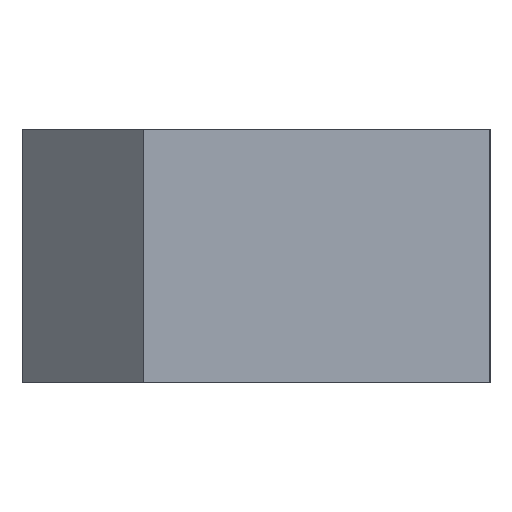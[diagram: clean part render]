
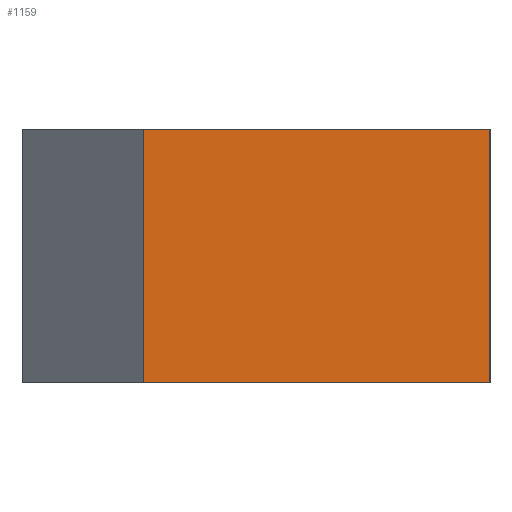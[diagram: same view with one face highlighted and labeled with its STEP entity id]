
A CAD part, left-side view. The second image highlights one B-rep face of the part: STEP entity #1159.
In plain terms, the highlighted planar face has unit normal (-1, 0, 0).
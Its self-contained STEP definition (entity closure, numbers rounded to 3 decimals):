
#18 = CARTESIAN_POINT ( 'NONE',  ( 0., 0., 0. ) ) ;
#87 = ORIENTED_EDGE ( 'NONE', *, *, #2755, .T. ) ;
#380 = LINE ( 'NONE', #414, #445 ) ;
#414 = CARTESIAN_POINT ( 'NONE',  ( 0., 63., -46. ) ) ;
#445 = VECTOR ( 'NONE', #6884, 1000. ) ;
#856 = ORIENTED_EDGE ( 'NONE', *, *, #3035, .F. ) ;
#987 = ORIENTED_EDGE ( 'NONE', *, *, #2741, .T. ) ;
#1120 = ORIENTED_EDGE ( 'NONE', *, *, #6749, .F. ) ;
#1132 = DIRECTION ( 'NONE',  ( 0., -1., 0. ) ) ;
#1153 = CARTESIAN_POINT ( 'NONE',  ( 0., 63., -46. ) ) ;
#1159 = ADVANCED_FACE ( 'NONE', ( #5137 ), #2230, .T. ) ;
#1180 = VECTOR ( 'NONE', #2238, 1000. ) ;
#1521 = VECTOR ( 'NONE', #1132, 1000. ) ;
#1792 = VERTEX_POINT ( 'NONE', #3929 ) ;
#1987 = VERTEX_POINT ( 'NONE', #18 ) ;
#2230 = PLANE ( 'NONE',  #5232 ) ;
#2238 = DIRECTION ( 'NONE',  ( 0., 0., 1. ) ) ;
#2697 = EDGE_LOOP ( 'NONE', ( #856, #1120, #987, #87 ) ) ;
#2741 = EDGE_CURVE ( 'NONE', #6537, #3316, #6607, .T. ) ;
#2755 = EDGE_CURVE ( 'NONE', #3316, #1987, #2783, .T. ) ;
#2783 = LINE ( 'NONE', #4986, #1180 ) ;
#2905 = DIRECTION ( 'NONE',  ( -1., 0., 0. ) ) ;
#2936 = CARTESIAN_POINT ( 'NONE',  ( 0., 0., -46. ) ) ;
#3035 = EDGE_CURVE ( 'NONE', #1792, #1987, #5507, .T. ) ;
#3316 = VERTEX_POINT ( 'NONE', #2936 ) ;
#3552 = VECTOR ( 'NONE', #3942, 1000. ) ;
#3929 = CARTESIAN_POINT ( 'NONE',  ( 0., 63., 0. ) ) ;
#3942 = DIRECTION ( 'NONE',  ( 0., -1., 0. ) ) ;
#4421 = DIRECTION ( 'NONE',  ( 0., -1., 0. ) ) ;
#4962 = CARTESIAN_POINT ( 'NONE',  ( 0., 63., 0. ) ) ;
#4986 = CARTESIAN_POINT ( 'NONE',  ( 0., 0., -46. ) ) ;
#5137 = FACE_OUTER_BOUND ( 'NONE', #2697, .T. ) ;
#5232 = AXIS2_PLACEMENT_3D ( 'NONE', #1153, #2905, #4421 ) ;
#5507 = LINE ( 'NONE', #4962, #3552 ) ;
#5511 = CARTESIAN_POINT ( 'NONE',  ( 0., 63., -46. ) ) ;
#6082 = CARTESIAN_POINT ( 'NONE',  ( 0., 63., -46. ) ) ;
#6537 = VERTEX_POINT ( 'NONE', #5511 ) ;
#6607 = LINE ( 'NONE', #6082, #1521 ) ;
#6749 = EDGE_CURVE ( 'NONE', #6537, #1792, #380, .T. ) ;
#6884 = DIRECTION ( 'NONE',  ( 0., 0., 1. ) ) ;
